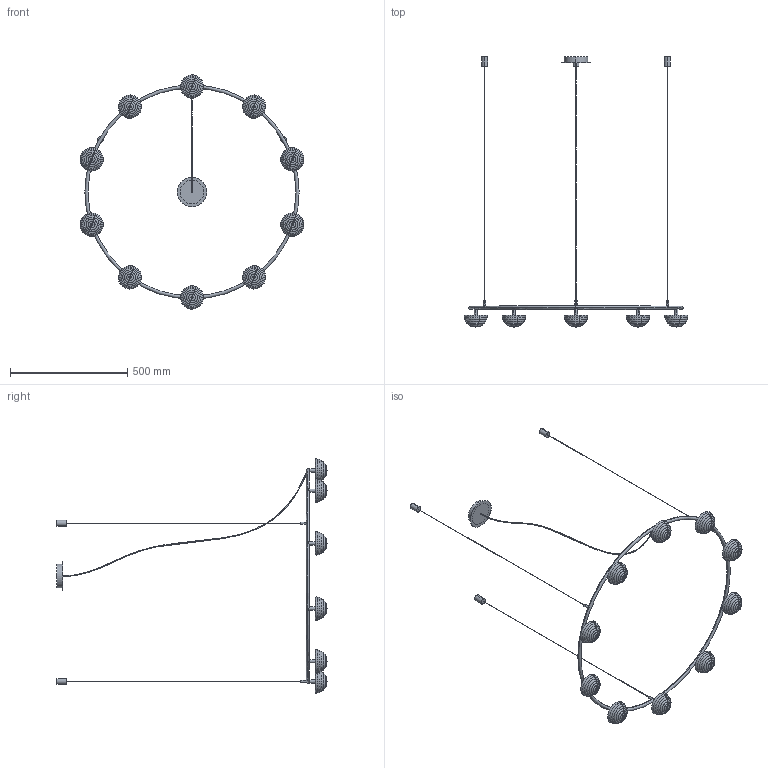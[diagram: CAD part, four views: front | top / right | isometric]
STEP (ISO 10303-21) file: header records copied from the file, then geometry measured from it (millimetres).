
FILE_DESCRIPTION (( 'STEP AP214' ), '1' );
FILE_NAME ('HADO_C1331_10.STEP', '2024-09-18T08:15:37', ( '' ), ( '' ), 'SwSTEP 2.0', 'SolidWorks 2018', '' );
FILE_SCHEMA (( 'AUTOMOTIVE_DESIGN' ));
Length unit declared in the file: millimetre
Products named in the file (1): HADO_C1331_10
Bounding box: 955.44 x 1152 x 999.48 mm (x, y, z)
Volume: 3092302.2 mm3; surface area: 501903.9 mm2
Topology: 19 solids, 19 shells, 346 faces, 691 edges, 414 vertices
Faces by surface type: torus 152, cylinder 102, plane 70, sphere 20, bspline 2
Entity records: 14588 total; most frequent: CARTESIAN_POINT 3010, DIRECTION 1882, ORIENTED_EDGE 1382, AXIS2_PLACEMENT_3D 890, EDGE_CURVE 691, CIRCLE 545, VERTEX_POINT 414, EDGE_LOOP 379
